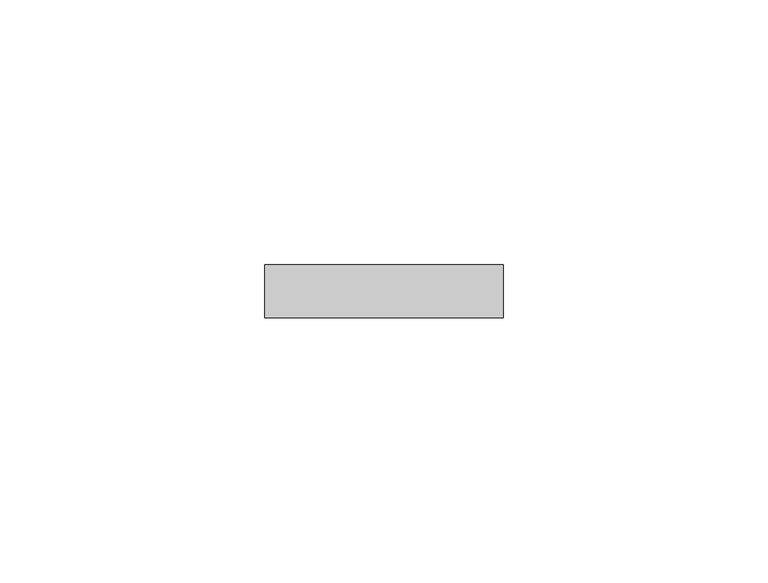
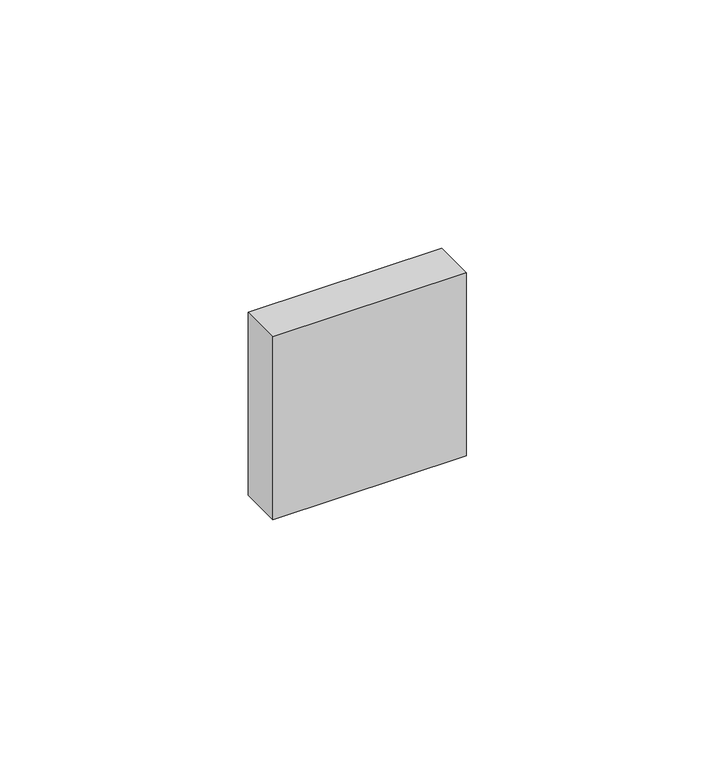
"""IFC4 building model written with IfcOpenShell, lengths in millimetres: proxy geometry, IEK_Skandy_Заглушка с суппортом : З_SK-C01B."""

import ifcopenshell
import ifcopenshell.guid

model = None  # the IFC model being written
_history = None  # IfcOwnerHistory: only IFC2X3 demands one
_inside = {}  # id of a spatial element -> (the spatial element, [elements in it])
_under = {}  # id of a project, library or spatial element -> (it, [spatial elements below it])
_declared = {}  # id of a project -> (the project, [libraries it declares])
_typed = {}  # id of a type object -> (the type object, [elements of that type])
_made_of = {}  # id of a material, layer set ... -> (it, [elements and type objects made of it])


def new_model(schema):
    """Start an empty IFC model of exactly this schema.

    Asked for "IFC4X3", IfcOpenShell would pick the latest addendum, in which some entities
    have other attributes; the version numbers below select the first issue.
    IFC2X3 requires an IfcOwnerHistory on every rooted entity: one is made here for all.
    """
    global model, _history
    if schema == "IFC4X3":
        model = ifcopenshell.file(schema_version=(4, 3, 0, 0))
    else:
        model = ifcopenshell.file(schema=schema)
    _inside.clear()
    _under.clear()
    _declared.clear()
    _typed.clear()
    _made_of.clear()
    _history = None
    if model.schema == "IFC2X3":
        org = make("IfcOrganization", Name="unknown")
        user = make(
            "IfcPersonAndOrganization",
            ThePerson=make("IfcPerson", FamilyName="unknown"),
            TheOrganization=org,
        )
        app = make(
            "IfcApplication",
            ApplicationDeveloper=org,
            Version="unknown",
            ApplicationFullName="unknown",
            ApplicationIdentifier="unknown",
        )
        _history = make(
            "IfcOwnerHistory",
            OwningUser=user,
            OwningApplication=app,
            ChangeAction="ADDED",
            CreationDate=0,
        )
    return model


def make(cls, **values):
    """One entity of the class cls with the attributes given. An attribute that is None is left unset."""
    return model.create_entity(
        cls, **{name: value for name, value in values.items() if value is not None}
    )


def rooted(cls, **values):
    """An entity with a GlobalId (a new one), such as an element, a storey or a relation."""
    return make(cls, GlobalId=ifcopenshell.guid.new(), OwnerHistory=_history, **values)


def si_unit(unit_type, name, prefix=None):
    """IfcSIUnit, for example si_unit("LENGTHUNIT", "METRE", prefix="MILLI")."""
    return make("IfcSIUnit", UnitType=unit_type, Prefix=prefix, Name=name)


def assignment(units):
    """IfcUnitAssignment: the units of a project."""
    return None if units is None else make("IfcUnitAssignment", Units=units)


def point(xyz):
    """IfcCartesianPoint."""
    return None if xyz is None else make("IfcCartesianPoint", Coordinates=xyz)


def direction(xyz):
    """IfcDirection."""
    return None if xyz is None else make("IfcDirection", DirectionRatios=xyz)


def frame(location, z_axis=None, x_axis=None):
    """IfcAxis2Placement3D, a coordinate frame: its origin and axes. An axis left out is left unset."""
    return make(
        "IfcAxis2Placement3D",
        Location=point(location),
        Axis=direction(z_axis),
        RefDirection=direction(x_axis),
    )


def origin():
    """The frame at (0, 0, 0) with its axes left unset."""
    return frame((0.0, 0.0, 0.0))


def place(relative_to, where):
    """IfcLocalPlacement: puts the frame where relative to a parent placement (None: the world)."""
    return make(
        "IfcLocalPlacement", PlacementRelTo=relative_to, RelativePlacement=where
    )


def context(
    kind, dimensions, precision=None, world=None, true_north=None, identifier=None
):
    """IfcGeometricRepresentationContext, for example the 3D "Model" context."""
    return make(
        "IfcGeometricRepresentationContext",
        ContextIdentifier=identifier,
        ContextType=kind,
        CoordinateSpaceDimension=dimensions,
        Precision=precision,
        WorldCoordinateSystem=world,
        TrueNorth=true_north,
    )


def project(units=None, contexts=None):
    """IfcProject with its units and contexts."""
    return rooted(
        "IfcProject",
        Name="project",
        RepresentationContexts=contexts,
        UnitsInContext=assignment(units),
    )


def spatial(cls, under=None, at=None, **own):
    """A site, building, storey or space (cls), placed at a placement, below another one or the project."""
    s = rooted(cls, ObjectPlacement=at, **own)
    if under is not None:
        _under.setdefault(under.id(), (under, []))[1].append(s)
    return s


def polyline(points):
    """IfcPolyline through the points."""
    return make("IfcPolyline", Points=[point(p) for p in points])


def outline(outer, holes=None, kind="AREA"):
    """IfcArbitraryClosedProfileDef: a profile drawn as a closed curve; with holes, ...WithVoids."""
    if holes is None:
        return make("IfcArbitraryClosedProfileDef", ProfileType=kind, OuterCurve=outer)
    return make(
        "IfcArbitraryProfileDefWithVoids",
        ProfileType=kind,
        OuterCurve=outer,
        InnerCurves=holes,
    )


def extrude(swept, where, along, depth):
    """IfcExtrudedAreaSolid: the profile swept, set in the frame where, extruded along a direction by depth."""
    return make(
        "IfcExtrudedAreaSolid",
        SweptArea=swept,
        Position=where,
        ExtrudedDirection=direction(along),
        Depth=depth,
    )


def shape(context_of_items, identifier, shape_type, items):
    """IfcShapeRepresentation: the items that make up one representation, for example the "Body"."""
    return make(
        "IfcShapeRepresentation",
        ContextOfItems=context_of_items,
        RepresentationIdentifier=identifier,
        RepresentationType=shape_type,
        Items=items,
    )


def source(mapping_origin, context_of_items, identifier, shape_type, items):
    """IfcRepresentationMap: a shape defined once, which mapped items show again and again."""
    return make(
        "IfcRepresentationMap",
        MappingOrigin=mapping_origin,
        MappedRepresentation=shape(context_of_items, identifier, shape_type, items),
    )


def transform(
    local_origin,
    x_axis=None,
    y_axis=None,
    z_axis=None,
    scale=None,
    scale2=None,
    scale3=None,
    uniform=True,
):
    """IfcCartesianTransformationOperator3D, or its non-uniform kind. x_axis, y_axis, z_axis: its Axis1, 2, 3."""
    if uniform:
        return make(
            "IfcCartesianTransformationOperator3D",
            Axis1=direction(x_axis),
            Axis2=direction(y_axis),
            LocalOrigin=point(local_origin),
            Scale=scale,
            Axis3=direction(z_axis),
        )
    return make(
        "IfcCartesianTransformationOperator3DnonUniform",
        Axis1=direction(x_axis),
        Axis2=direction(y_axis),
        LocalOrigin=point(local_origin),
        Scale=scale,
        Axis3=direction(z_axis),
        Scale2=scale2,
        Scale3=scale3,
    )


def mapped(mapping_source, mapping_target):
    """IfcMappedItem: shows the shape of a source again, moved by a transform."""
    return make(
        "IfcMappedItem", MappingSource=mapping_source, MappingTarget=mapping_target
    )


def made_of(thing, what):
    """Note that an element or type object is made of a material, layer set ...; save() writes the relation."""
    if what is not None:
        _made_of.setdefault(what.id(), (what, []))[1].append(thing)
    return thing


def element(
    cls,
    number,
    at=None,
    inside=None,
    cuts=None,
    type_object=None,
    material=None,
    context=None,
    identifier="Body",
    shape_type=None,
    held_by="IfcProductDefinitionShape",
    body=None,
    shapes=None,
    **own,
):
    """One element of the class cls, such as IfcWall. Its Tag is "e" and its number.

    at: its placement. inside: the storey or other place that contains it. cuts: it is an
    opening in that element (IfcRelVoidsElement). A single representation is given by context,
    identifier, shape_type and body (its items); several are given by shapes. held_by: the class
    of the entity that holds the representations. save() writes the other relations.
    """
    e = rooted(cls, Tag="e%d" % number, ObjectPlacement=at, **own)
    if body is not None:
        shapes = [shape(context, identifier, shape_type, body)]
    if shapes is not None:
        e.Representation = make(held_by, Representations=shapes)
    if inside is not None:
        _inside.setdefault(inside.id(), (inside, []))[1].append(e)
    if cuts is not None:
        rooted(
            "IfcRelVoidsElement", RelatingBuildingElement=cuts, RelatedOpeningElement=e
        )
    if type_object is not None:
        _typed.setdefault(type_object.id(), (type_object, []))[1].append(e)
    return made_of(e, material)


def aggregate(whole, parts):
    """IfcRelAggregates: a whole, such as a stair, and the parts it consists of."""
    return rooted("IfcRelAggregates", RelatingObject=whole, RelatedObjects=parts)


def save(model, path):
    """Write the relations noted so far, then the file.

    IfcRelAggregates (storeys below a building ...), IfcRelContainedInSpatialStructure (elements
    in a storey), IfcRelDefinesByType, IfcRelAssociatesMaterial and IfcRelDeclares: one each for
    every whole, place, type object, material and project.
    """
    for whole, parts in _under.values():
        aggregate(whole, parts)
    for where, things in _inside.values():
        rooted(
            "IfcRelContainedInSpatialStructure",
            RelatedElements=things,
            RelatingStructure=where,
        )
    for kind, things in _typed.values():
        rooted("IfcRelDefinesByType", RelatedObjects=things, RelatingType=kind)
    for what, things in _made_of.values():
        rooted("IfcRelAssociatesMaterial", RelatedObjects=things, RelatingMaterial=what)
    for by, libraries in _declared.values():
        rooted("IfcRelDeclares", RelatingContext=by, RelatedDefinitions=libraries)
    model.write(path)


def electrical_fixtures_e03153dd(model_context):
    return source(origin(), model_context, "Body", "SweptSolid", [
        extrude(outline(polyline([(22.5, 0.0), (-22.5, 0.0), (-22.5, 10.0), (22.5, 10.0), (22.5, 0.0)])), frame((0.0, 0.0, -22.5), z_axis=(0.0, 0.0, 1.0), x_axis=(1.0, 0.0, 0.0)), (0.0, 0.0, 1.0), 45.0),
    ])


if __name__ == "__main__":
    model = new_model("IFC4")
    model_context = context("Model", 3, world=origin())
    ifc_project = project(units=[si_unit("LENGTHUNIT", "METRE", prefix="MILLI")], contexts=[model_context])
    site = spatial("IfcSite", under=ifc_project)
    building = spatial("IfcBuilding", under=site)
    placement = place(None, origin())
    electrical_fixtures_shape = electrical_fixtures_e03153dd(model_context)
    element("IfcBuildingElementProxy", 1, Name="IEK_Skandy_Заглушка с суппортом : З_SK-C01B", ObjectType="IEK_Skandy_Заглушка с суппортом : З_SK-C01B", at=placement, inside=building, context=model_context, shape_type="MappedRepresentation", body=[
        mapped(electrical_fixtures_shape, transform((0.0, 0.0, 0.0), x_axis=(1.0, 0.0, 0.0), y_axis=(0.0, 1.0, 0.0), z_axis=(0.0, 0.0, 1.0))),
    ])
    save(model, "model.ifc")
